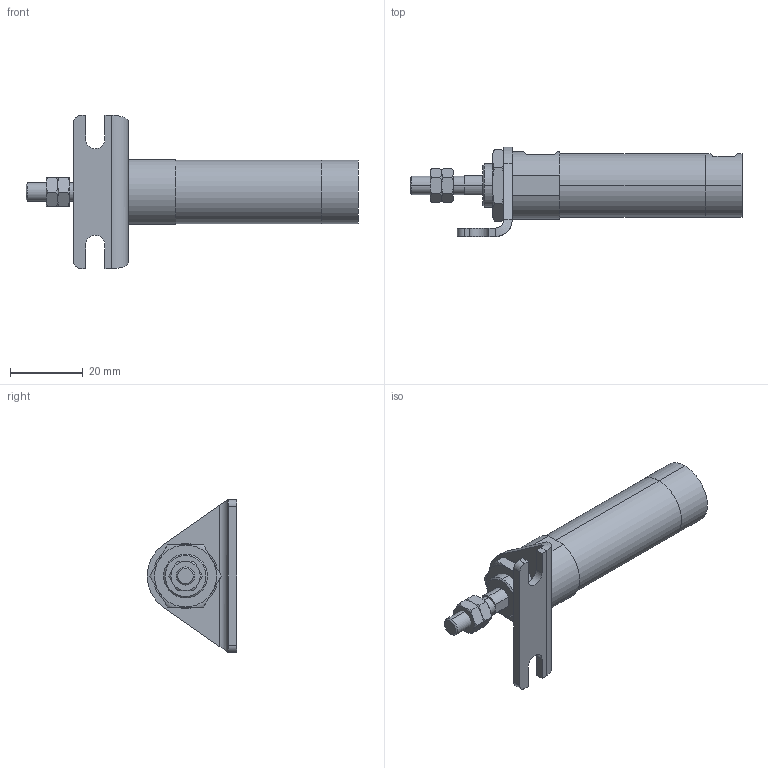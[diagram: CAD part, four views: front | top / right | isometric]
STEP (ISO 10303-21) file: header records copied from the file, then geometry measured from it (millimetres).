
FILE_DESCRIPTION (( 'STEP AP203' ), '1' );
FILE_NAME ('ZGU2-16-15-L.STEP', '2016-03-31T00:57:25', ( '' ), ( '' ), 'SwSTEP 2.0', 'SolidWorks 2014', '' );
FILE_SCHEMA (( 'CONFIG_CONTROL_DESIGN' ));
Length unit declared in the file: millimetre
Products named in the file (5): Z-16-L; ZGU2-16-15-L; ZGU2-16-15
Assembly tree (5 placements, depth 2):
  ZGU2-16-15-L
    ZGU2-16-15
    (unnamed)  x2
    (unnamed)
    Z-16-L
Bounding box: 91 x 24.46 x 42 mm (x, y, z)
Volume: 19004.1 mm3; surface area: 7972.7 mm2
Topology: 5 solids, 5 shells, 134 faces, 299 edges, 180 vertices
Faces by surface type: plane 56, torus 36, cylinder 32, cone 8, bspline 2
Entity records: 3968 total; most frequent: CARTESIAN_POINT 997, DIRECTION 511, ORIENTED_EDGE 494, EDGE_CURVE 247, AXIS2_PLACEMENT_3D 202, VERTEX_POINT 152, EDGE_LOOP 127, FACE_OUTER_BOUND 112
